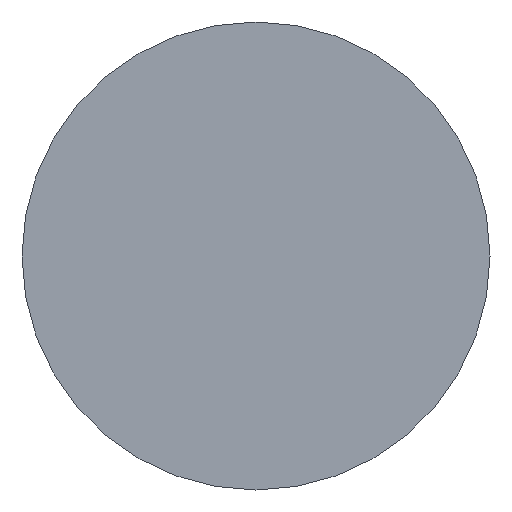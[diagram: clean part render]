
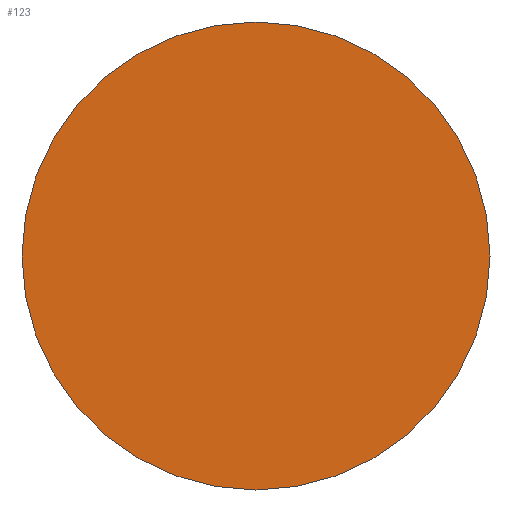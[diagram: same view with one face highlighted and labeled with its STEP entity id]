
A CAD part, front view. The second image highlights one B-rep face of the part: STEP entity #123.
In plain terms, the highlighted planar face has unit normal (0, -1, 0).
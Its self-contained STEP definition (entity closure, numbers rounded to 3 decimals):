
#39 = EDGE_CURVE('',#40,#40,#42,.T.);
#40 = VERTEX_POINT('',#41);
#41 = CARTESIAN_POINT('',(-25.5,-6.8,20.));
#42 = SURFACE_CURVE('',#43,(#48,#60),.PCURVE_S1.);
#43 = CIRCLE('',#44,1.5);
#44 = AXIS2_PLACEMENT_3D('',#45,#46,#47);
#45 = CARTESIAN_POINT('',(-27.,-6.8,20.));
#46 = DIRECTION('',(0.,-1.,0.));
#47 = DIRECTION('',(1.,0.,0.));
#48 = PCURVE('',#49,#54);
#49 = CYLINDRICAL_SURFACE('',#50,1.5);
#50 = AXIS2_PLACEMENT_3D('',#51,#52,#53);
#51 = CARTESIAN_POINT('',(-27.,-5.2,20.));
#52 = DIRECTION('',(0.,-1.,0.));
#53 = DIRECTION('',(1.,0.,0.));
#54 = DEFINITIONAL_REPRESENTATION('',(#55),#59);
#55 = LINE('',#56,#57);
#56 = CARTESIAN_POINT('',(0.,1.6));
#57 = VECTOR('',#58,1.);
#58 = DIRECTION('',(1.,0.));
#59 = ( GEOMETRIC_REPRESENTATION_CONTEXT(2) 
PARAMETRIC_REPRESENTATION_CONTEXT() REPRESENTATION_CONTEXT('2D SPACE',''
  ) );
#60 = PCURVE('',#61,#66);
#61 = PLANE('',#62);
#62 = AXIS2_PLACEMENT_3D('',#63,#64,#65);
#63 = CARTESIAN_POINT('',(-27.,-6.8,20.));
#64 = DIRECTION('',(0.,-1.,0.));
#65 = DIRECTION('',(1.,0.,0.));
#66 = DEFINITIONAL_REPRESENTATION('',(#67),#71);
#67 = CIRCLE('',#68,1.5);
#68 = AXIS2_PLACEMENT_2D('',#69,#70);
#69 = CARTESIAN_POINT('',(0.,0.));
#70 = DIRECTION('',(1.,0.));
#71 = ( GEOMETRIC_REPRESENTATION_CONTEXT(2) 
PARAMETRIC_REPRESENTATION_CONTEXT() REPRESENTATION_CONTEXT('2D SPACE',''
  ) );
#123 = ADVANCED_FACE('',(#124),#61,.T.);
#124 = FACE_BOUND('',#125,.T.);
#125 = EDGE_LOOP('',(#126));
#126 = ORIENTED_EDGE('',*,*,#39,.T.);
